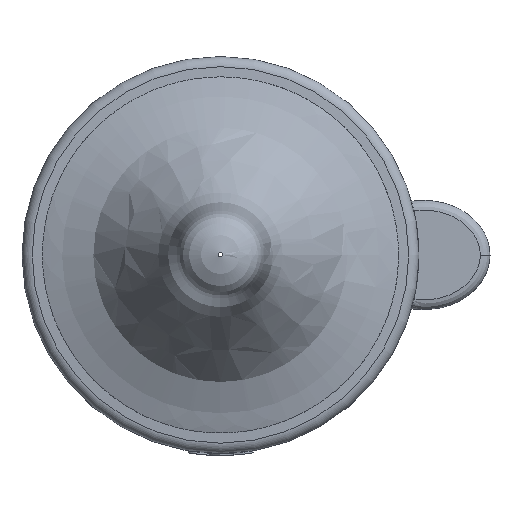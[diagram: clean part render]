
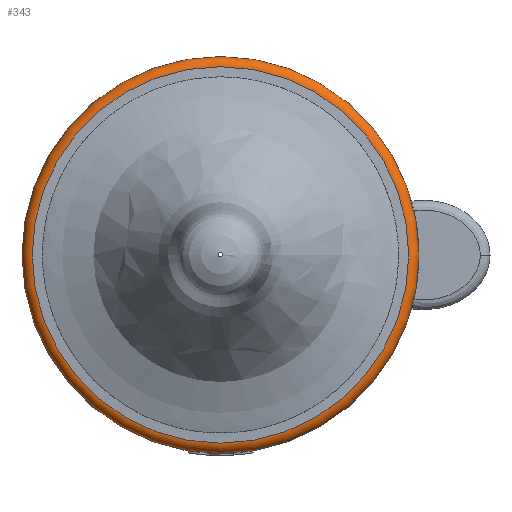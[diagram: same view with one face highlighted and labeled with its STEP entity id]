
A CAD part, top view. The second image highlights one B-rep face of the part: STEP entity #343.
In plain terms, the highlighted toroidal (fillet/blend) face has major radius 24.007 mm and minor radius 1.401 mm.
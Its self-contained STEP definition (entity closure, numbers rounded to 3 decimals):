
#53 = SURFACE_OF_REVOLUTION('',#54,#74);
#54 = B_SPLINE_CURVE_WITH_KNOTS('',3,(#55,#56,#57,#58,#59,#60,#61,#62,
    #63,#64,#65,#66,#67,#68,#69,#70,#71,#72,#73),.UNSPECIFIED.,.F.,.F.,(
    4,1,1,1,1,1,1,1,1,1,3,3,4),(0.,2.489,4.964,
    7.904,11.367,15.569,20.759,
    27.77,33.292,37.745,37.948,
    38.875,39.348),.UNSPECIFIED.);
#55 = CARTESIAN_POINT('',(0.,0.,31.));
#56 = CARTESIAN_POINT('',(0.876,0.,31.));
#57 = CARTESIAN_POINT('',(2.43,0.,30.671));
#58 = CARTESIAN_POINT('',(5.,0.,29.451));
#59 = CARTESIAN_POINT('',(5.776,0.,26.331));
#60 = CARTESIAN_POINT('',(5.836,0.,22.881));
#61 = CARTESIAN_POINT('',(6.632,0.,18.522));
#62 = CARTESIAN_POINT('',(9.996,0.,14.208));
#63 = CARTESIAN_POINT('',(14.013,0.,9.249));
#64 = CARTESIAN_POINT('',(16.258,0.,5.741));
#65 = CARTESIAN_POINT('',(23.932,0.,4.171));
#66 = CARTESIAN_POINT('',(22.374,0.,4.201));
#67 = CARTESIAN_POINT('',(22.306,0.,4.203));
#68 = CARTESIAN_POINT('',(22.306,0.,4.203));
#69 = CARTESIAN_POINT('',(22.306,0.,4.203));
#70 = CARTESIAN_POINT('',(22.306,0.,4.203));
#71 = CARTESIAN_POINT('',(22.622,0.,4.187));
#72 = CARTESIAN_POINT('',(23.179,0.,4.155));
#73 = CARTESIAN_POINT('',(24.1,0.,4.1));
#74 = AXIS1_PLACEMENT('',#75,#76);
#75 = CARTESIAN_POINT('',(0.,0.,0.));
#76 = DIRECTION('',(0.,0.,1.));
#143 = VERTEX_POINT('',#144);
#144 = CARTESIAN_POINT('',(24.1,0.,4.1));
#181 = EDGE_CURVE('',#143,#143,#182,.T.);
#182 = SURFACE_CURVE('',#183,(#188,#195),.PCURVE_S1.);
#183 = CIRCLE('',#184,24.1);
#184 = AXIS2_PLACEMENT_3D('',#185,#186,#187);
#185 = CARTESIAN_POINT('',(0.,0.,4.1));
#186 = DIRECTION('',(0.,0.,1.));
#187 = DIRECTION('',(1.,0.,-0.));
#188 = PCURVE('',#53,#189);
#189 = DEFINITIONAL_REPRESENTATION('',(#190),#194);
#190 = LINE('',#191,#192);
#191 = CARTESIAN_POINT('',(0.,39.348));
#192 = VECTOR('',#193,1.);
#193 = DIRECTION('',(1.,0.));
#194 = ( GEOMETRIC_REPRESENTATION_CONTEXT(2) 
PARAMETRIC_REPRESENTATION_CONTEXT() REPRESENTATION_CONTEXT('2D SPACE',''
  ) );
#195 = PCURVE('',#196,#201);
#196 = TOROIDAL_SURFACE('',#197,24.007,1.401);
#197 = AXIS2_PLACEMENT_3D('',#198,#199,#200);
#198 = CARTESIAN_POINT('',(0.,0.,2.702));
#199 = DIRECTION('',(-0.,-0.,-1.));
#200 = DIRECTION('',(1.,0.,-0.));
#201 = DEFINITIONAL_REPRESENTATION('',(#202),#206);
#202 = LINE('',#203,#204);
#203 = CARTESIAN_POINT('',(-0.,4.779));
#204 = VECTOR('',#205,1.);
#205 = DIRECTION('',(-1.,0.));
#206 = ( GEOMETRIC_REPRESENTATION_CONTEXT(2) 
PARAMETRIC_REPRESENTATION_CONTEXT() REPRESENTATION_CONTEXT('2D SPACE',''
  ) );
#343 = ADVANCED_FACE('',(#344),#196,.T.);
#344 = FACE_BOUND('',#345,.F.);
#345 = EDGE_LOOP('',(#346,#347,#371,#398));
#346 = ORIENTED_EDGE('',*,*,#181,.T.);
#347 = ORIENTED_EDGE('',*,*,#348,.T.);
#348 = EDGE_CURVE('',#143,#349,#351,.T.);
#349 = VERTEX_POINT('',#350);
#350 = CARTESIAN_POINT('',(25.4,0.,2.55));
#351 = SEAM_CURVE('',#352,(#357,#364),.PCURVE_S1.);
#352 = CIRCLE('',#353,1.401);
#353 = AXIS2_PLACEMENT_3D('',#354,#355,#356);
#354 = CARTESIAN_POINT('',(24.007,0.,2.702));
#355 = DIRECTION('',(0.,1.,0.));
#356 = DIRECTION('',(0.066,-0.,0.998));
#357 = PCURVE('',#196,#358);
#358 = DEFINITIONAL_REPRESENTATION('',(#359),#363);
#359 = LINE('',#360,#361);
#360 = CARTESIAN_POINT('',(-0.,4.779));
#361 = VECTOR('',#362,1.);
#362 = DIRECTION('',(-0.,1.));
#363 = ( GEOMETRIC_REPRESENTATION_CONTEXT(2) 
PARAMETRIC_REPRESENTATION_CONTEXT() REPRESENTATION_CONTEXT('2D SPACE',''
  ) );
#364 = PCURVE('',#196,#365);
#365 = DEFINITIONAL_REPRESENTATION('',(#366),#370);
#366 = LINE('',#367,#368);
#367 = CARTESIAN_POINT('',(-6.283,4.779));
#368 = VECTOR('',#369,1.);
#369 = DIRECTION('',(-0.,1.));
#370 = ( GEOMETRIC_REPRESENTATION_CONTEXT(2) 
PARAMETRIC_REPRESENTATION_CONTEXT() REPRESENTATION_CONTEXT('2D SPACE',''
  ) );
#371 = ORIENTED_EDGE('',*,*,#372,.F.);
#372 = EDGE_CURVE('',#349,#349,#373,.T.);
#373 = SURFACE_CURVE('',#374,(#379,#386),.PCURVE_S1.);
#374 = CIRCLE('',#375,25.4);
#375 = AXIS2_PLACEMENT_3D('',#376,#377,#378);
#376 = CARTESIAN_POINT('',(0.,0.,2.55));
#377 = DIRECTION('',(0.,0.,1.));
#378 = DIRECTION('',(1.,0.,-0.));
#379 = PCURVE('',#196,#380);
#380 = DEFINITIONAL_REPRESENTATION('',(#381),#385);
#381 = LINE('',#382,#383);
#382 = CARTESIAN_POINT('',(-0.,6.392));
#383 = VECTOR('',#384,1.);
#384 = DIRECTION('',(-1.,0.));
#385 = ( GEOMETRIC_REPRESENTATION_CONTEXT(2) 
PARAMETRIC_REPRESENTATION_CONTEXT() REPRESENTATION_CONTEXT('2D SPACE',''
  ) );
#386 = PCURVE('',#387,#392);
#387 = CYLINDRICAL_SURFACE('',#388,25.4);
#388 = AXIS2_PLACEMENT_3D('',#389,#390,#391);
#389 = CARTESIAN_POINT('',(0.,0.,2.55));
#390 = DIRECTION('',(-0.,-0.,-1.));
#391 = DIRECTION('',(1.,0.,0.));
#392 = DEFINITIONAL_REPRESENTATION('',(#393),#397);
#393 = LINE('',#394,#395);
#394 = CARTESIAN_POINT('',(-0.,0.));
#395 = VECTOR('',#396,1.);
#396 = DIRECTION('',(-1.,0.));
#397 = ( GEOMETRIC_REPRESENTATION_CONTEXT(2) 
PARAMETRIC_REPRESENTATION_CONTEXT() REPRESENTATION_CONTEXT('2D SPACE',''
  ) );
#398 = ORIENTED_EDGE('',*,*,#348,.F.);
